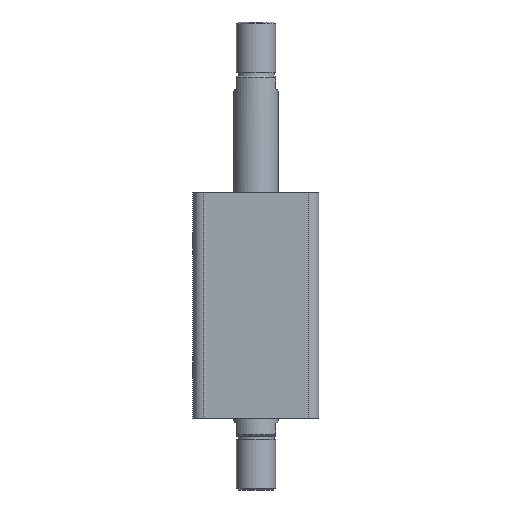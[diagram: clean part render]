
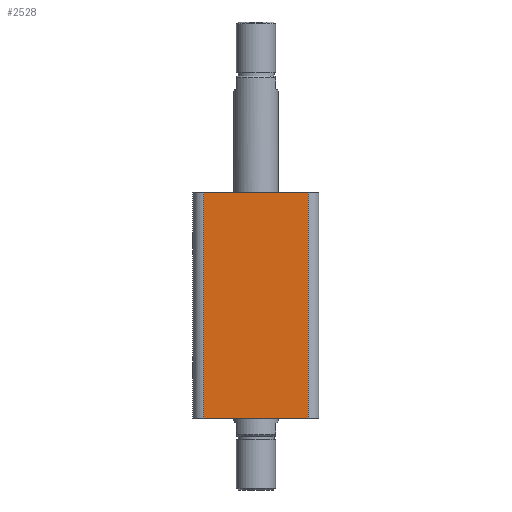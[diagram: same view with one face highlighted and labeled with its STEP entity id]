
A CAD part, front view. The second image highlights one B-rep face of the part: STEP entity #2528.
In plain terms, the highlighted planar face has unit normal (0, -1, 0).
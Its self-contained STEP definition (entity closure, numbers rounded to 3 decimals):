
#260 = VERTEX_POINT ( 'NONE', #404 ) ;
#268 = VERTEX_POINT ( 'NONE', #412 ) ;
#275 = VERTEX_POINT ( 'NONE', #419 ) ;
#404 = CARTESIAN_POINT ( 'NONE',  ( 29., -35., 0. ) ) ;
#412 = CARTESIAN_POINT ( 'NONE',  ( 29., -35., 125. ) ) ;
#419 = CARTESIAN_POINT ( 'NONE',  ( -29., -35., 0. ) ) ;
#741 = EDGE_CURVE ( 'NONE', #1624, #268, #1826, .T. ) ;
#742 = EDGE_CURVE ( 'NONE', #1624, #275, #1828, .T. ) ;
#743 = EDGE_CURVE ( 'NONE', #275, #260, #1820, .T. ) ;
#744 = EDGE_CURVE ( 'NONE', #260, #268, #1832, .T. ) ;
#1010 = AXIS2_PLACEMENT_3D ( 'NONE', #2652, #2656, #2657 ) ;
#1102 = CARTESIAN_POINT ( 'NONE',  ( -35., -35., 0. ) ) ;
#1112 = CARTESIAN_POINT ( 'NONE',  ( -35., -35., 125. ) ) ;
#1113 = DIRECTION ( 'NONE',  ( 1., 0., 0. ) ) ;
#1114 = CARTESIAN_POINT ( 'NONE',  ( -29., -35., 125. ) ) ;
#1115 = DIRECTION ( 'NONE',  ( 0., 0., -1. ) ) ;
#1116 = DIRECTION ( 'NONE',  ( 1., 0., 0. ) ) ;
#1117 = CARTESIAN_POINT ( 'NONE',  ( 29., -35., 125. ) ) ;
#1118 = DIRECTION ( 'NONE',  ( 0., 0., 1. ) ) ;
#1408 = CARTESIAN_POINT ( 'NONE',  ( -29., -35., 125. ) ) ;
#1624 = VERTEX_POINT ( 'NONE', #1408 ) ;
#1820 = LINE ( 'NONE', #1102, #1833 ) ;
#1826 = LINE ( 'NONE', #1112, #1829 ) ;
#1828 = LINE ( 'NONE', #1114, #1831 ) ;
#1829 = VECTOR ( 'NONE', #1113, 1000. ) ;
#1831 = VECTOR ( 'NONE', #1115, 1000. ) ;
#1832 = LINE ( 'NONE', #1117, #1835 ) ;
#1833 = VECTOR ( 'NONE', #1116, 1000. ) ;
#1835 = VECTOR ( 'NONE', #1118, 1000. ) ;
#2010 = FACE_OUTER_BOUND ( 'NONE', #2285, .T. ) ;
#2256 = ORIENTED_EDGE ( 'NONE', *, *, #744, .T. ) ;
#2257 = ORIENTED_EDGE ( 'NONE', *, *, #743, .T. ) ;
#2258 = ORIENTED_EDGE ( 'NONE', *, *, #742, .T. ) ;
#2259 = ORIENTED_EDGE ( 'NONE', *, *, #741, .F. ) ;
#2285 = EDGE_LOOP ( 'NONE', ( #2259, #2258, #2257, #2256 ) ) ;
#2528 = ADVANCED_FACE ( 'NONE', ( #2010 ), #2654, .F. ) ;
#2652 = CARTESIAN_POINT ( 'NONE',  ( -35., -35., 125. ) ) ;
#2654 = PLANE ( 'NONE',  #1010 ) ;
#2656 = DIRECTION ( 'NONE',  ( 0., 1., 0. ) ) ;
#2657 = DIRECTION ( 'NONE',  ( 0., 0., 1. ) ) ;
